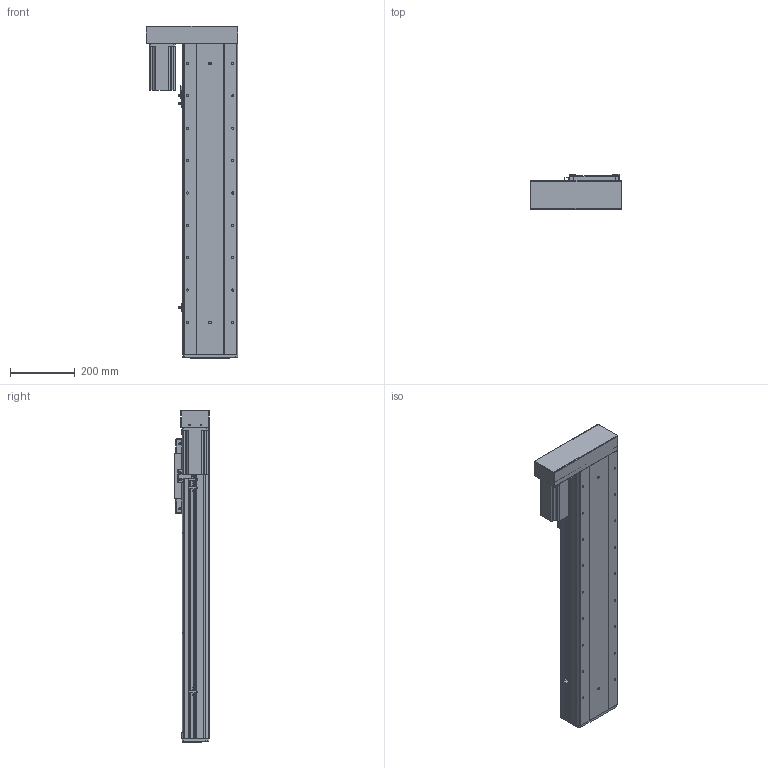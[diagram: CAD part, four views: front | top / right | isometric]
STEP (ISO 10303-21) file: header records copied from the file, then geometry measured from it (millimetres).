
FILE_DESCRIPTION (( 'STEP AP203' ), '1' );
FILE_NAME ('RY170F-L2020-300-LK.SLDASM_650.step', '2021-03-02T09:00:36', ( '盈信电脑' ), ( '东莞市道滘镇水果街19号' ), 'SwSTEP 2.0', 'SolidWorks 2012', '' );
FILE_SCHEMA (( 'CONFIG_CONTROL_DESIGN' ));
Length unit declared in the file: millimetre
Products named in the file (20): RY170F酘衵殏萇儂欶; RY170F-L2020-300-LK.SLDASM_650; 怢湛750W萇儂ㄗ80遺ㄘ; RY170F-蛌殏萇儂假蚾啣; RY170F-酘衵殏萇儂釱; 侐源滅袉蝶; 滅袉蝶18-24; RY170F俋离覜茼え; RY170F-揤踡謫假蚾粣; 覜茼ん672; RY170F-詩湍揤踡輸; RY170F-綴裔啣; 滅袉蝶18-10; RY100F-詩湍揤踡謫; RY170F-300眻蟀倰第奻裔啣-LK_650; RY170F-丝杆铝滑块连接板; RY170F-佪裝臏賑輸20蹟譫; RY170F-300眻蟀倰第菁釱-LK_650; RY170F-滅鳥奻裔; RY170F-300眻蟀祥凄詩湍-LK_650
Assembly tree (24 placements, depth 2):
  RY170F-L2020-300-LK.SLDASM_650
    RY170F-滅鳥奻裔
    RY170F-300眻蟀祥凄詩湍-LK_650
    RY170F-300眻蟀倰第菁釱-LK_650
    RY170F-佪裝臏賑輸20蹟譫
    RY170F-丝杆铝滑块连接板
    RY170F-300眻蟀倰第奻裔啣-LK_650  x2
    滅袉蝶18-10
    RY100F-詩湍揤踡謫
    RY170F-綴裔啣
    覜茼ん672  x3
    RY170F俋离覜茼え
    RY170F-揤踡謫假蚾粣
    RY170F-詩湍揤踡輸  x2
    滅袉蝶18-24
    侐源滅袉蝶  x2
    RY170F-酘衵殏萇儂釱
    RY170F-蛌殏萇儂假蚾啣
    怢湛750W萇儂ㄗ80遺ㄘ
    RY170F酘衵殏萇儂欶
Bounding box: 283 x 107 x 1026 mm (x, y, z)
Volume: 6445388.8 mm3; surface area: 2061520.2 mm2
Topology: 24 solids, 24 shells, 1853 faces, 5134 edges, 3254 vertices
Faces by surface type: cylinder 877, plane 760, cone 208, bspline 8
Entity records: 53107 total; most frequent: CARTESIAN_POINT 10706, DIRECTION 8607, ORIENTED_EDGE 8200, EDGE_CURVE 4100, AXIS2_PLACEMENT_3D 3105, VERTEX_POINT 2674, LINE 2397, VECTOR 2397
